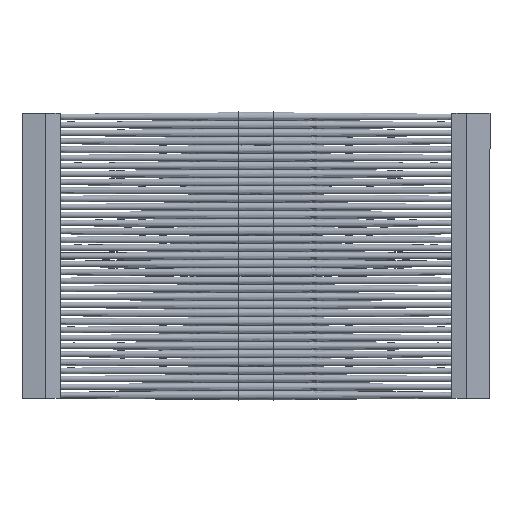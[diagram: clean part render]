
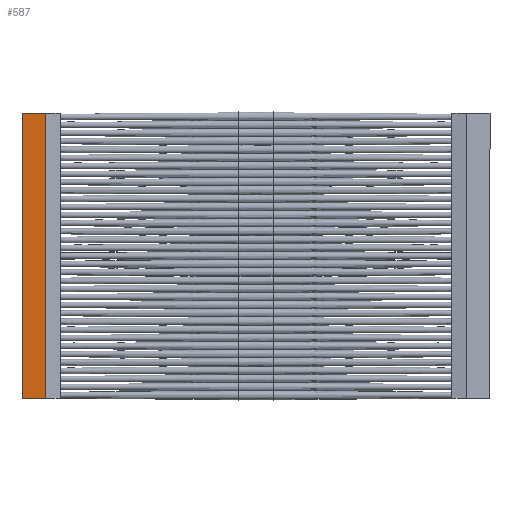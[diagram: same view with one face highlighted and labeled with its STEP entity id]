
A CAD part, front view. The second image highlights one B-rep face of the part: STEP entity #587.
In plain terms, the highlighted planar face has unit normal (-0.09, -0.996, 0) as drawn and (0, -0.091, 0.996) by its records, which use the part's own axes.
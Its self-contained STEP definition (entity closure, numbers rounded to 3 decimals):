
#561 = VERTEX_POINT('',#562);
#562 = CARTESIAN_POINT('',(-67.,-7.,4.75));
#568 = EDGE_CURVE('',#569,#561,#571,.T.);
#569 = VERTEX_POINT('',#570);
#570 = CARTESIAN_POINT('',(67.,-7.,4.75));
#571 = LINE('',#572,#573);
#572 = CARTESIAN_POINT('',(67.,-7.,4.75));
#573 = VECTOR('',#574,1.);
#574 = DIRECTION('',(-1.,-0.,-0.));
#587 = ADVANCED_FACE('',(#588),#613,.F.);
#588 = FACE_BOUND('',#589,.T.);
#589 = EDGE_LOOP('',(#590,#598,#606,#612));
#590 = ORIENTED_EDGE('',*,*,#591,.T.);
#591 = EDGE_CURVE('',#561,#592,#594,.T.);
#592 = VERTEX_POINT('',#593);
#593 = CARTESIAN_POINT('',(-67.,-18.,3.75));
#594 = LINE('',#595,#596);
#595 = CARTESIAN_POINT('',(-67.,-7.349,4.718));
#596 = VECTOR('',#597,1.);
#597 = DIRECTION('',(0.,-0.996,-0.091));
#598 = ORIENTED_EDGE('',*,*,#599,.F.);
#599 = EDGE_CURVE('',#600,#592,#602,.T.);
#600 = VERTEX_POINT('',#601);
#601 = CARTESIAN_POINT('',(67.,-18.,3.75));
#602 = LINE('',#603,#604);
#603 = CARTESIAN_POINT('',(67.,-18.,3.75));
#604 = VECTOR('',#605,1.);
#605 = DIRECTION('',(-1.,-0.,-0.));
#606 = ORIENTED_EDGE('',*,*,#607,.F.);
#607 = EDGE_CURVE('',#569,#600,#608,.T.);
#608 = LINE('',#609,#610);
#609 = CARTESIAN_POINT('',(67.,-7.349,4.718));
#610 = VECTOR('',#611,1.);
#611 = DIRECTION('',(0.,-0.996,-0.091));
#612 = ORIENTED_EDGE('',*,*,#568,.T.);
#613 = PLANE('',#614);
#614 = AXIS2_PLACEMENT_3D('',#615,#616,#617);
#615 = CARTESIAN_POINT('',(67.,-7.349,4.718));
#616 = DIRECTION('',(0.,0.091,-0.996));
#617 = DIRECTION('',(0.,0.996,0.091));
